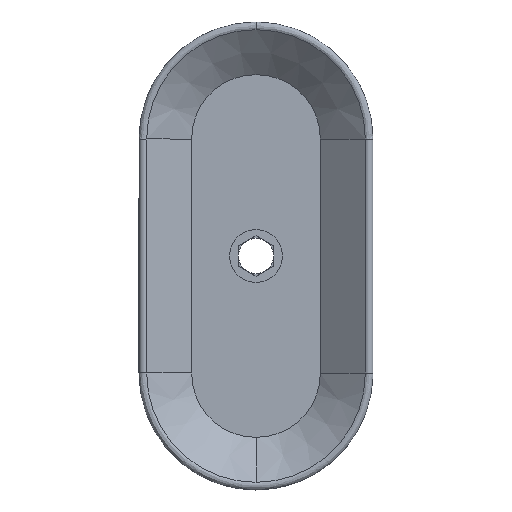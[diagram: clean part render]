
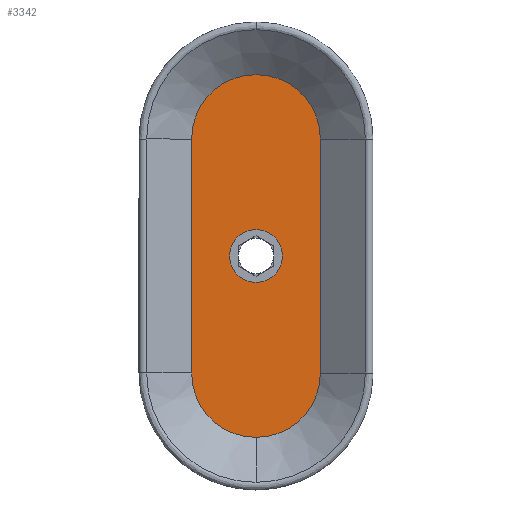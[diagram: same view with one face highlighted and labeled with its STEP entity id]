
A CAD part, front view. The second image highlights one B-rep face of the part: STEP entity #3342.
In plain terms, the highlighted planar face has unit normal (0, -1, 0).
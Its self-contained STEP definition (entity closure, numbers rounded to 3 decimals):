
#75 = CARTESIAN_POINT ( 'NONE',  ( 0., 4.5, 20. ) ) ;
#181 = VECTOR ( 'NONE', #3855, 1000. ) ;
#183 = CARTESIAN_POINT ( 'NONE',  ( 0., 4.5, 0. ) ) ;
#186 = LINE ( 'NONE', #2086, #3538 ) ;
#203 = VERTEX_POINT ( 'NONE', #6091 ) ;
#343 = ORIENTED_EDGE ( 'NONE', *, *, #4358, .T. ) ;
#550 = CARTESIAN_POINT ( 'NONE',  ( -4.5, 4.5, 0. ) ) ;
#598 = CARTESIAN_POINT ( 'NONE',  ( 0., 4.5, 20. ) ) ;
#705 = DIRECTION ( 'NONE',  ( 0., 0., 1. ) ) ;
#817 = DIRECTION ( 'NONE',  ( -1., 0., 0. ) ) ;
#1193 = PLANE ( 'NONE',  #6858 ) ;
#1226 = DIRECTION ( 'NONE',  ( 0., 0., -1. ) ) ;
#1321 = VERTEX_POINT ( 'NONE', #550 ) ;
#1384 = CARTESIAN_POINT ( 'NONE',  ( 0., 4.5, 31. ) ) ;
#1546 = EDGE_LOOP ( 'NONE', ( #5648, #343 ) ) ;
#1587 = ORIENTED_EDGE ( 'NONE', *, *, #2961, .T. ) ;
#1661 = CIRCLE ( 'NONE', #5318, 11. ) ;
#1748 = AXIS2_PLACEMENT_3D ( 'NONE', #5542, #1770, #6166 ) ;
#1770 = DIRECTION ( 'NONE',  ( 0., -1., 0. ) ) ;
#2076 = LINE ( 'NONE', #6963, #181 ) ;
#2086 = CARTESIAN_POINT ( 'NONE',  ( -11., 4.5, 20. ) ) ;
#2103 = VERTEX_POINT ( 'NONE', #8148 ) ;
#2108 = VERTEX_POINT ( 'NONE', #3173 ) ;
#2154 = FACE_BOUND ( 'NONE', #1546, .T. ) ;
#2266 = CIRCLE ( 'NONE', #5529, 4.5 ) ;
#2439 = CARTESIAN_POINT ( 'NONE',  ( -11., 4.5, -20. ) ) ;
#2455 = DIRECTION ( 'NONE',  ( 0., -1., 0. ) ) ;
#2530 = DIRECTION ( 'NONE',  ( 0., 1., 0. ) ) ;
#2746 = EDGE_CURVE ( 'NONE', #6050, #203, #4731, .T. ) ;
#2961 = EDGE_CURVE ( 'NONE', #2108, #2103, #2076, .T. ) ;
#3173 = CARTESIAN_POINT ( 'NONE',  ( 11., 4.5, -20. ) ) ;
#3342 = ADVANCED_FACE ( 'NONE', ( #6954, #2154 ), #1193, .T. ) ;
#3538 = VECTOR ( 'NONE', #4612, 1000. ) ;
#3543 = AXIS2_PLACEMENT_3D ( 'NONE', #6205, #2455, #6835 ) ;
#3855 = DIRECTION ( 'NONE',  ( 0., 0., 1. ) ) ;
#3897 = EDGE_CURVE ( 'NONE', #4175, #2108, #5456, .T. ) ;
#4175 = VERTEX_POINT ( 'NONE', #2439 ) ;
#4358 = EDGE_CURVE ( 'NONE', #6109, #1321, #5763, .T. ) ;
#4496 = DIRECTION ( 'NONE',  ( 0., -1., 0. ) ) ;
#4599 = DIRECTION ( 'NONE',  ( 0., 1., 0. ) ) ;
#4612 = DIRECTION ( 'NONE',  ( 0., 0., -1. ) ) ;
#4731 = CIRCLE ( 'NONE', #3543, 11. ) ;
#5004 = ORIENTED_EDGE ( 'NONE', *, *, #3897, .T. ) ;
#5005 = DIRECTION ( 'NONE',  ( 0., -1., 0. ) ) ;
#5289 = EDGE_CURVE ( 'NONE', #203, #4175, #186, .T. ) ;
#5318 = AXIS2_PLACEMENT_3D ( 'NONE', #75, #4496, #705 ) ;
#5456 = CIRCLE ( 'NONE', #1748, 11. ) ;
#5529 = AXIS2_PLACEMENT_3D ( 'NONE', #183, #4599, #817 ) ;
#5540 = EDGE_CURVE ( 'NONE', #2103, #6050, #1661, .T. ) ;
#5542 = CARTESIAN_POINT ( 'NONE',  ( 0., 4.5, -20. ) ) ;
#5648 = ORIENTED_EDGE ( 'NONE', *, *, #6528, .T. ) ;
#5763 = CIRCLE ( 'NONE', #7489, 4.5 ) ;
#6050 = VERTEX_POINT ( 'NONE', #1384 ) ;
#6091 = CARTESIAN_POINT ( 'NONE',  ( -11., 4.5, 20. ) ) ;
#6109 = VERTEX_POINT ( 'NONE', #7658 ) ;
#6166 = DIRECTION ( 'NONE',  ( 0., 0., 1. ) ) ;
#6205 = CARTESIAN_POINT ( 'NONE',  ( 0., 4.5, 20. ) ) ;
#6275 = CARTESIAN_POINT ( 'NONE',  ( 0., 4.5, 0. ) ) ;
#6528 = EDGE_CURVE ( 'NONE', #1321, #6109, #2266, .T. ) ;
#6835 = DIRECTION ( 'NONE',  ( 0., 0., 1. ) ) ;
#6848 = ORIENTED_EDGE ( 'NONE', *, *, #2746, .T. ) ;
#6858 = AXIS2_PLACEMENT_3D ( 'NONE', #598, #5005, #1226 ) ;
#6905 = DIRECTION ( 'NONE',  ( -1., 0., 0. ) ) ;
#6954 = FACE_OUTER_BOUND ( 'NONE', #7729, .T. ) ;
#6963 = CARTESIAN_POINT ( 'NONE',  ( 11., 4.5, 20. ) ) ;
#7489 = AXIS2_PLACEMENT_3D ( 'NONE', #6275, #2530, #6905 ) ;
#7542 = ORIENTED_EDGE ( 'NONE', *, *, #5289, .T. ) ;
#7637 = ORIENTED_EDGE ( 'NONE', *, *, #5540, .T. ) ;
#7658 = CARTESIAN_POINT ( 'NONE',  ( 4.5, 4.5, 0. ) ) ;
#7729 = EDGE_LOOP ( 'NONE', ( #5004, #1587, #7637, #6848, #7542 ) ) ;
#8148 = CARTESIAN_POINT ( 'NONE',  ( 11., 4.5, 20. ) ) ;
